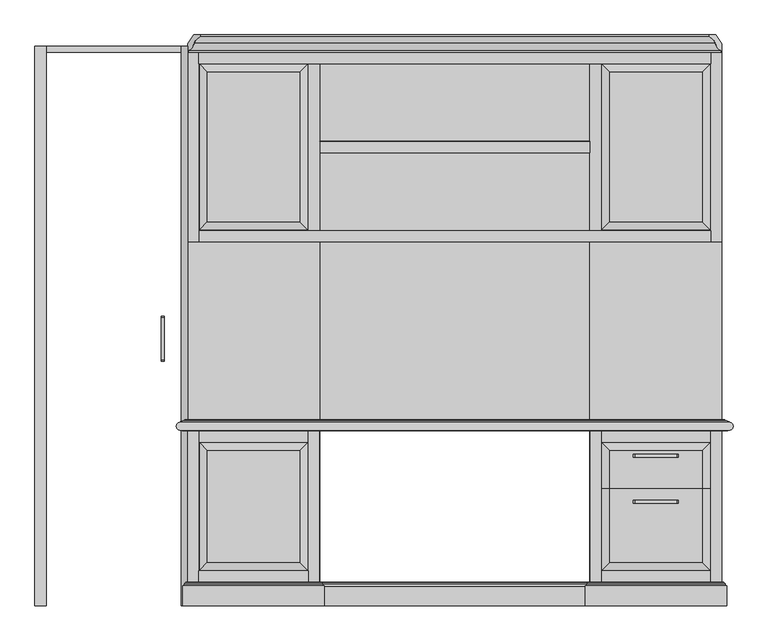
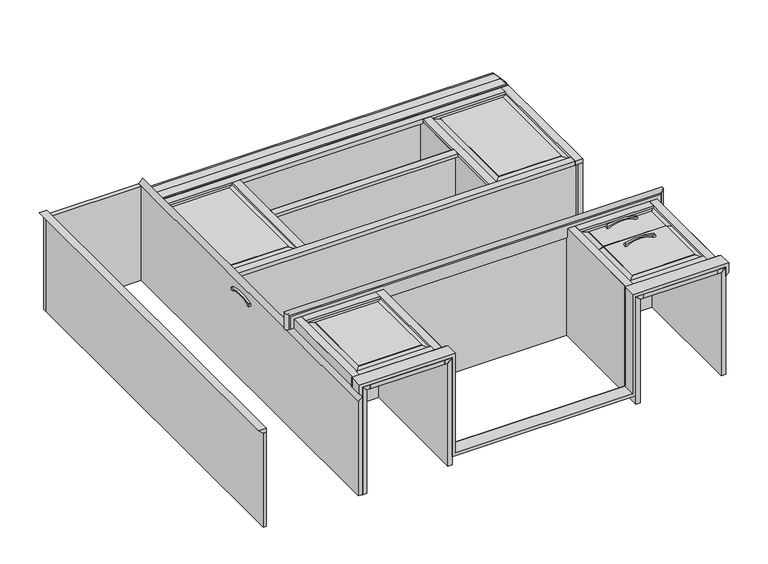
"""IFC4 building model written with IfcOpenShell, lengths in millimetres: proxy geometry, CCN^BRIGHTON_L2-A STRAIGHT WALL-SOLID ASSEMBLY."""

from ifc_helpers import new_model, si_unit, point, frame, frame_2d, origin, place, context, project, spatial, polyline, circle_curve, ellipse_curve, trimmed, segment, composite_curve, outline, extrude, faceted_brep, source, transform, mapped, element, save
from ifc_brep_helpers import plane_surface, cylinder_surface, revolved_surface, advanced_brep


def generic_models_5eb5989c(model_context):
    return source(origin(), model_context, "Body", "SolidModel", [
        extrude(outline(polyline([(482.2863055, -888.8189584), (456.8863055, -914.2189584), (-184.4636945, -914.2189584), (-184.4636945, -888.8189584), (482.2863055, -888.8189584)])), frame((0.0, -1724.1532659, 0.0), z_axis=(0.0, 1.0, 0.0), x_axis=(0.0, 0.0, 1.0)), (0.0, 0.0, 1.0), 704.85),
        extrude(outline(polyline([(-933.2689584, -1724.1532659), (-1371.4189584, -1724.1532659), (-1371.4189584, -1584.4532659), (-933.2689584, -1584.4532659), (-933.2689584, -1724.1532659)])), frame((0.0, 0.0, 456.8863055), z_axis=(0.0, 0.0, 1.0), x_axis=(1.0, 0.0, 0.0)), (0.0, 0.0, 1.0), 25.4),
        advanced_brep(
        [(728.233923, -981.2032659, 425.1363055), (-1426.3718398, -981.2032659, 425.1363055), (-1426.3718398, -981.2032659, 492.7891869), (728.233923, -981.2032659, 492.7891869), (731.4342137, -983.7846321, 495.9894776), (746.3060416, -989.1975348, 510.8613055), (746.3060416, -989.1975348, 425.1363055), (731.4342137, -983.7846321, 425.1363055), (745.172113, -1022.4944855, 509.7273769), (744.7185416, -1022.4782659, 509.2738055), (739.2192803, -1025.6532659, 503.7745442), (739.2192803, -1025.6532659, 425.1363055), (745.172113, -1022.4944855, 425.1363055), (746.3060416, -990.7850348, 510.8613055), (746.3060416, -1022.5350348, 510.8613055), (746.3060416, -990.7850348, 425.1363055), (-1444.4439584, -990.7850348, 510.8613055), (-1444.4439584, -989.1975348, 510.8613055), (-1444.4439584, -989.1975348, 425.1363055), (-1444.4439584, -990.7850348, 425.1363055), (-1443.3100298, -1022.4944855, 509.7273769), (-1444.4439584, -1022.5350348, 510.8613055), (-1443.3100298, -1022.4944855, 425.1363055), (-1437.3571971, -1025.6532659, 503.7745442), (-1442.8564584, -1022.4782659, 509.2738055), (-1437.3571971, -1025.6532659, 425.1363055), (-1429.5721305, -983.7846321, 495.9894776), (-1429.5721305, -983.7846321, 425.1363055)],
        [
            (0, 1),
            (1, 2),
            (2, 3),
            (3, 0),
            (4, 5),
            (5, 6),
            (6, 7),
            (7, 4),
            (3, 4, ellipse_curve(frame((733.6060416, -977.817584, 498.1613055), z_axis=(-0.7071067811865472, 0.0, 0.7071067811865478), x_axis=(-0.7071067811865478, 0.0, -0.7071067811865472)), 8.9802561, 6.35)),
            (7, 0, circle_curve(frame((733.6060416, -977.817584, 425.1363055), z_axis=(0.0, 0.0, -1.0), x_axis=(1.0, 0.0, 0.0)), 6.35)),
            (8, 9, ellipse_curve(frame((744.7185416, -1028.8282659, 509.2738055), z_axis=(-0.7071067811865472, 0.0, 0.7071067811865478), x_axis=(-0.7071067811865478, 0.0, -0.7071067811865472)), 8.9802561, 6.35)),
            (9, 10, ellipse_curve(frame((744.7185416, -1028.8282659, 509.2738055), z_axis=(-0.7071067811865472, 0.0, 0.7071067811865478), x_axis=(-0.7071067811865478, 0.0, -0.7071067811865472)), 8.9802561, 6.35)),
            (10, 11),
            (11, 12, circle_curve(frame((744.7185416, -1028.8282659, 425.1363055), z_axis=(0.0, 0.0, -1.0), x_axis=(1.0, 0.0, 0.0)), 6.35)),
            (12, 8),
            (13, 14, ellipse_curve(frame((746.3060416, -1006.6600348, 510.8613055), z_axis=(0.7071067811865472, 0.0, -0.7071067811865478), x_axis=(-0.7071067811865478, 0.0, -0.7071067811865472)), 22.4506403, 15.875)),
            (14, 8, ellipse_curve(frame((746.3060416, -1006.6600348, 510.8613055), z_axis=(0.7071067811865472, 0.0, -0.7071067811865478), x_axis=(-0.7071067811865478, 0.0, -0.7071067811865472)), 22.4506403, 15.875)),
            (12, 15, circle_curve(frame((746.3060416, -1006.6600348, 425.1363055), z_axis=(0.0, 0.0, 1.0), x_axis=(1.0, 0.0, 0.0)), 15.875)),
            (15, 13),
            (5, 13),
            (15, 6),
            (16, 17),
            (17, 18),
            (18, 19),
            (19, 16),
            (20, 21, ellipse_curve(frame((-1444.4439584, -1006.6600348, 510.8613055), z_axis=(-0.7071067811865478, 0.0, -0.7071067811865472), x_axis=(0.7071067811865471, 0.0, -0.7071067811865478)), 22.4506403, 15.875)),
            (21, 16, ellipse_curve(frame((-1444.4439584, -1006.6600348, 510.8613055), z_axis=(-0.7071067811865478, 0.0, -0.7071067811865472), x_axis=(0.7071067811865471, 0.0, -0.7071067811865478)), 22.4506403, 15.875)),
            (19, 22, circle_curve(frame((-1444.4439584, -1006.6600348, 425.1363055), z_axis=(0.0, 0.0, 1.0), x_axis=(-0.9993612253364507, -0.03573711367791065, 0.0)), 15.875)),
            (22, 20),
            (23, 24, ellipse_curve(frame((-1442.8564584, -1028.8282659, 509.2738055), z_axis=(0.7071067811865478, 0.0, 0.7071067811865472), x_axis=(0.7071067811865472, 0.0, -0.7071067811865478)), 8.9802561, 6.35)),
            (24, 20, ellipse_curve(frame((-1442.8564584, -1028.8282659, 509.2738055), z_axis=(0.7071067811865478, 0.0, 0.7071067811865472), x_axis=(0.7071067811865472, 0.0, -0.7071067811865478)), 8.9802561, 6.35)),
            (22, 25, circle_curve(frame((-1442.8564584, -1028.8282659, 425.1363055), z_axis=(0.0, 0.0, -1.0), x_axis=(1.0, 0.0, 0.0)), 6.35)),
            (25, 23),
            (26, 2, ellipse_curve(frame((-1431.7439584, -977.817584, 498.1613055), z_axis=(0.7071067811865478, 0.0, 0.7071067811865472), x_axis=(0.7071067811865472, 0.0, -0.7071067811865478)), 8.9802561, 6.35)),
            (1, 27, circle_curve(frame((-1431.7439584, -977.817584, 425.1363055), z_axis=(0.0, 0.0, -1.0), x_axis=(-1.0, 0.0, 0.0)), 6.35)),
            (27, 26),
            (17, 26),
            (27, 18),
            (11, 25),
            (26, 4),
            (17, 5),
            (16, 13),
            (20, 8),
            (23, 10),
        ],
        [
            plane_surface(frame((-349.0689584, -981.2032659, 504.5113055), z_axis=(0.0, 1.0, 0.0), x_axis=(0.0, 0.0, 1.0))),
            plane_surface(frame((731.4342137, -983.7846321, 495.9894776), z_axis=(0.34202014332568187, 0.9396926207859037, 0.0), x_axis=(0.6847910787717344, -0.24924356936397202, 0.6847910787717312))),
            revolved_surface(polyline([(739.9560416, -977.817584, 425.1363055), (739.9560416, -977.817584, 504.5113054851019)]), (733.6060416, -977.817584, 498.1613055), (0.0, 0.0, -1.0)),
            revolved_surface(polyline([(751.0685416, -1028.8282659, 425.1363055), (751.0685416, -1028.8282659, 515.6238054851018)]), (744.7185416, -1028.8282659, 509.2738055), (0.0, 0.0, -1.0)),
            cylinder_surface(frame((746.3060416, -1006.6600348, 510.8613055), z_axis=(0.0, 0.0, -1.0), x_axis=(1.0, 0.0, 0.0)), 15.875),
            plane_surface(frame((746.3060416, -989.1975348, 510.8613055), z_axis=(1.0, 0.0, 0.0), x_axis=(0.0, -1.0, 0.0))),
            plane_surface(frame((-1444.4439584, -990.7850348, 510.8613055), z_axis=(-1.0, 0.0, 0.0), x_axis=(0.0, 1.0, 0.0))),
            cylinder_surface(frame((-1444.4439584, -1006.6600348, 510.8613055), z_axis=(0.0, 0.0, -1.0), x_axis=(-0.9993612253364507, -0.03573711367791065, 0.0)), 15.875),
            revolved_surface(polyline([(-1436.5064584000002, -1028.8282659, 425.1363055), (-1436.5064584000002, -1028.8282659, 515.6238054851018)]), (-1442.8564584, -1028.8282659, 509.2738055), (0.0, 0.0, -1.0)),
            revolved_surface(polyline([(-1438.0939584, -977.817584, 425.1363055), (-1438.0939584, -977.817584, 504.5113054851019)]), (-1431.7439584, -977.817584, 498.1613055), (0.0, 0.0, -1.0)),
            plane_surface(frame((-1444.4439584, -989.1975348, 510.8613055), z_axis=(-0.34202014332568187, 0.9396926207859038, 0.0), x_axis=(0.684791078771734, 0.24924356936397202, -0.6847910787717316))),
            plane_surface(frame((-1460.3189584, -981.2032659, 425.1363055), z_axis=(0.0, 0.0, -1.0), x_axis=(-1.0, 0.0, 0.0))),
            revolved_surface(polyline([(739.9560415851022, -981.2032658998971, 492.78918691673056), (-1438.093958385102, -981.2032658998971, 492.78918691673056)]), (-1415.8689584, -977.817584, 498.1613055), (1.0, 0.0, 0.0)),
            plane_surface(frame((-1415.8689584, -989.1975348, 510.8613055), z_axis=(0.0, 0.9396926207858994, 0.3420201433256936), x_axis=(0.0, 0.3420201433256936, -0.9396926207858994))),
            plane_surface(frame((-1415.8689584, -990.7850348, 510.8613055), z_axis=(0.0, 0.0, 1.0), x_axis=(0.0, 1.0, 0.0))),
            cylinder_surface(frame((-1415.8689584, -1006.6600348, 510.8613055), z_axis=(1.0, 0.0, 0.0), x_axis=(0.0, 0.9974457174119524, 0.07142857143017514)), 15.875),
            revolved_surface(polyline([(751.0685415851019, -1022.494485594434, 509.7273769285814), (-1449.206458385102, -1022.494485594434, 509.7273769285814)]), (-1415.8689584, -1028.8282659, 509.2738055), (1.0, 0.0, 0.0)),
            plane_surface(frame((-349.0689584, -1025.6532659, 504.5113055), z_axis=(0.0, -1.0, 0.0), x_axis=(0.0, 0.0, -1.0))),
        ],
        [
            (0, [[1, 2, 3, 4]]),
            (1, [[5, 6, 7, 8]]),
            (2, [[9, -8, 10, -4]]),
            (3, [[11, 12, 13, 14, 15]]),
            (4, [[16, 17, -15, 18, 19]]),
            (5, [[20, -19, 21, -6]]),
            (6, [[22, 23, 24, 25]]),
            (7, [[26, 27, -25, 28, 29]]),
            (8, [[30, 31, -29, 32, 33]]),
            (9, [[34, -2, 35, 36]]),
            (10, [[37, -36, 38, -23]]),
            (11, [[-1, -10, -7, -21, -18, -14, 39, -32, -28, -24, -38, -35]]),
            (12, [[40, -9, -3, -34]]),
            (13, [[41, -5, -40, -37]]),
            (14, [[42, -20, -41, -22]]),
            (15, [[43, -17, -16, -42, -27, -26]]),
            (16, [[44, -12, -11, -43, -31, -30]]),
            (17, [[-39, -13, -44, -33]]),
        ],
    ),
        extrude(outline(polyline([(456.8863055, -914.2189584), (482.2863055, -888.8189584), (482.2863055, -933.2689584), (456.8863055, -933.2689584), (456.8863055, -914.2189584)])), frame((0.0, -1724.1532659, 0.0), z_axis=(0.0, 1.0, 0.0), x_axis=(0.0, 0.0, 1.0)), (0.0, 0.0, 1.0), 704.85),
        extrude(outline(polyline([(456.8863055, 673.2810416), (456.8863055, 692.3310416), (482.2863055, 717.7310416), (482.2863055, 673.2810416), (456.8863055, 673.2810416)])), frame((0.0, -1724.1532659, 0.0), z_axis=(0.0, 1.0, 0.0), x_axis=(0.0, 0.0, 1.0)), (0.0, 0.0, 1.0), 704.85),
        extrude(outline(polyline([(456.8863055, 216.0810416), (482.2863055, 190.6810416), (-184.4636945, 190.6810416), (-184.4636945, 216.0810416), (456.8863055, 216.0810416)])), frame((0.0, -1724.1532659, 0.0), z_axis=(0.0, 1.0, 0.0), x_axis=(0.0, 0.0, 1.0)), (0.0, 0.0, 1.0), 704.85),
        extrude(outline(polyline([(456.8863055, -1390.4689584), (456.8863055, -1371.4189584), (482.2863055, -1371.4189584), (482.2863055, -1415.8689584), (456.8863055, -1390.4689584)])), frame((0.0, -1724.1532659, 0.0), z_axis=(0.0, 1.0, 0.0), x_axis=(0.0, 0.0, 1.0)), (0.0, 0.0, 1.0), 704.85),
        faceted_brep([(638.3560416, -1257.4282659, 479.1113055), (670.1060416, -1257.4282659, 470.6039186), (670.1060416, -1257.4282659, 463.2363055), (238.3060416, -1257.4282659, 463.2363055), (238.3060416, -1257.4282659, 470.6039186), (270.0560416, -1257.4282659, 479.1113055), (270.0560416, -1257.4282659, 482.2863055), (638.3560416, -1257.4282659, 482.2863055), (638.3560416, -1549.5282659, 482.2863055), (638.3560416, -1549.5282659, 479.1113055), (270.0560416, -1549.5282659, 482.2863055), (238.3060416, -1581.2782659, 470.6039186), (270.0560416, -1549.5282659, 479.1113055), (670.1060416, -1581.2782659, 470.6039186), (670.1060416, -1581.2782659, 463.2363055), (238.3060416, -1581.2782659, 463.2363055)], [[[0, 1, 2, 3, 4, 5, 6, 7]], [[0, 7, 8, 9]], [[7, 6, 10, 8]], [[5, 4, 11, 12]], [[1, 0, 9, 13]], [[12, 11, 13, 9]], [[10, 12, 9, 8]], [[6, 5, 12, 10]], [[2, 1, 13, 14]], [[4, 3, 15, 11]], [[13, 11, 15, 14]], [[3, 2, 14, 15]]]),
        faceted_brep([(638.3560416, -1254.2532659, 482.2863055), (638.3560416, -1254.2532659, 479.1113055), (638.3560416, -1105.0282659, 479.1113055), (638.3560416, -1105.0282659, 482.2863055), (270.0560416, -1254.2532659, 482.2863055), (270.0560416, -1105.0282659, 482.2863055), (238.3060416, -1254.2532659, 470.6039186), (270.0560416, -1254.2532659, 479.1113055), (270.0560416, -1105.0282659, 479.1113055), (238.3060416, -1073.2782659, 470.6039186), (670.1060416, -1254.2532659, 470.6039186), (670.1060416, -1073.2782659, 470.6039186), (670.1060416, -1254.2532659, 463.2363055), (670.1060416, -1073.2782659, 463.2363055), (238.3060416, -1254.2532659, 463.2363055), (238.3060416, -1073.2782659, 463.2363055)], [[[0, 1, 2, 3]], [[4, 0, 3, 5]], [[6, 7, 8, 9]], [[1, 10, 11, 2]], [[7, 4, 5, 8]], [[10, 12, 13, 11]], [[14, 6, 9, 15]], [[12, 14, 15, 13]], [[9, 11, 13, 15]], [[3, 2, 8, 5]], [[2, 11, 9, 8]], [[10, 1, 0, 4, 7, 6, 14, 12]]]),
        advanced_brep(
        [(-1422.2189584, -1628.9032659, 431.4863055), (-1415.8689584, -1628.9032659, 425.1363055), (-1415.8689584, -1724.1532659, 425.1363055), (-1434.9189584, -1724.1532659, 444.1863055), (-1434.9189584, -1644.7782659, 444.1863055), (-1428.5689584, -1638.4282659, 437.8363055), (-1422.2189584, -1632.0782659, 431.4863055), (-1422.2189584, -1628.9032659, 488.6363055), (-882.4689584, -1628.9032659, 488.6363055), (-882.4689584, -1628.9032659, -127.3136945), (184.3310416, -1628.9032659, -127.3136945), (184.3310416, -1628.9032659, 488.6363055), (724.0810416, -1628.9032659, 488.6363055), (724.0810416, -1628.9032659, 431.4863055), (717.7310416, -1628.9032659, 425.1363055), (717.7310416, -1628.9032659, 482.2863055), (190.6810416, -1628.9032659, 482.2863055), (190.6810416, -1628.9032659, -133.6636945), (-888.8189584, -1628.9032659, -133.6636945), (-888.8189584, -1628.9032659, 482.2863055), (-1415.8689584, -1628.9032659, 482.2863055), (-1422.2189584, -1632.0782659, 488.6363055), (-1428.5689584, -1638.4282659, 494.9863055), (736.7810416, -1724.1532659, 444.1863055), (717.7310416, -1724.1532659, 425.1363055), (724.0810416, -1632.0782659, 431.4863055), (730.4310416, -1638.4282659, 437.8363055), (736.7810416, -1644.7782659, 444.1863055), (730.4310416, -1638.4282659, 494.9863055), (736.7810416, -1644.7782659, 501.3363055), (724.0810416, -1632.0782659, 488.6363055), (-1434.9189584, -1644.7782659, 501.3363055), (-1434.9189584, -1724.1532659, 501.3363055), (-1415.8689584, -1724.1532659, 482.2863055), (-888.8189584, -1724.1532659, 482.2863055), (-882.4689584, -1632.0782659, 488.6363055), (-869.7689584, -1644.7782659, 501.3363055), (-876.1189584, -1638.4282659, 494.9863055), (717.7310416, -1724.1532659, 482.2863055), (736.7810416, -1724.1532659, 501.3363055), (177.9810416, -1638.4282659, 494.9863055), (171.6310416, -1644.7782659, 501.3363055), (184.3310416, -1632.0782659, 488.6363055), (-888.8189584, -1724.1532659, -133.6636945), (190.6810416, -1724.1532659, -133.6636945), (190.6810416, -1724.1532659, 482.2863055), (171.6310416, -1724.1532659, 501.3363055), (171.6310416, -1724.1532659, -114.6136945), (-869.7689584, -1724.1532659, -114.6136945), (-869.7689584, -1724.1532659, 501.3363055), (177.9810416, -1638.4282659, -120.9636945), (171.6310416, -1644.7782659, -114.6136945), (184.3310416, -1632.0782659, -127.3136945), (-876.1189584, -1638.4282659, -120.9636945), (-869.7689584, -1644.7782659, -114.6136945), (-882.4689584, -1632.0782659, -127.3136945)],
        [
            (0, 1),
            (1, 2),
            (2, 3),
            (3, 4),
            (4, 5, ellipse_curve(frame((-1434.9189584, -1638.4282659, 444.1863055), z_axis=(0.707106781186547, 0.0, 0.7071067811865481), x_axis=(0.7071067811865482, 0.0, -0.7071067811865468)), 8.9802561, 6.35)),
            (5, 6, ellipse_curve(frame((-1422.2189584, -1638.4282659, 431.4863055), z_axis=(-0.707106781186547, 0.0, -0.7071067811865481), x_axis=(0.7071067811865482, 0.0, -0.7071067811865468)), 8.9802561, 6.35)),
            (6, 0),
            (0, 7),
            (7, 8),
            (8, 9),
            (9, 10),
            (10, 11),
            (11, 12),
            (12, 13),
            (13, 14),
            (14, 15),
            (15, 16),
            (16, 17),
            (17, 18),
            (18, 19),
            (19, 20),
            (20, 1),
            (6, 21),
            (21, 7),
            (5, 22),
            (22, 21, ellipse_curve(frame((-1422.2189584, -1638.4282659, 488.6363055), z_axis=(-0.7071067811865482, 0.0, -0.7071067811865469), x_axis=(0.707106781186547, 0.0, -0.707106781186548)), 8.9802561, 6.35)),
            (23, 24),
            (24, 14),
            (13, 25),
            (25, 26, ellipse_curve(frame((724.0810416, -1638.4282659, 431.4863055), z_axis=(0.7071067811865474, 0.0, -0.7071067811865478), x_axis=(0.7071067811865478, 0.0, 0.7071067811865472)), 8.9802561, 6.35)),
            (26, 27, ellipse_curve(frame((736.7810416, -1638.4282659, 444.1863055), z_axis=(-0.7071067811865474, 0.0, 0.7071067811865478), x_axis=(0.7071067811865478, 0.0, 0.7071067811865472)), 8.9802561, 6.35)),
            (27, 23),
            (26, 28),
            (28, 29, ellipse_curve(frame((736.7810416, -1638.4282659, 501.3363055), z_axis=(-0.7071067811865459, 0.0, 0.7071067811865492), x_axis=(0.7071067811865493, 0.0, 0.7071067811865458)), 8.9802561, 6.35)),
            (29, 27),
            (25, 30),
            (30, 28, ellipse_curve(frame((724.0810416, -1638.4282659, 488.6363055), z_axis=(0.7071067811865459, 0.0, -0.7071067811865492), x_axis=(0.7071067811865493, 0.0, 0.7071067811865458)), 8.9802561, 6.35)),
            (12, 30),
            (4, 31),
            (31, 22, ellipse_curve(frame((-1434.9189584, -1638.4282659, 501.3363055), z_axis=(0.7071067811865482, 0.0, 0.7071067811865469), x_axis=(0.707106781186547, 0.0, -0.707106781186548)), 8.9802561, 6.35)),
            (3, 32),
            (32, 31),
            (20, 33),
            (33, 2),
            (19, 34),
            (34, 33),
            (21, 35),
            (35, 8),
            (31, 36),
            (36, 37, ellipse_curve(frame((-869.7689584, -1638.4282659, 501.3363055), z_axis=(0.7071067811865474, 0.0, -0.7071067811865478), x_axis=(0.7071067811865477, 0.0, 0.7071067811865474)), 8.9802561, 6.35)),
            (37, 22),
            (24, 38),
            (38, 15),
            (29, 39),
            (39, 23),
            (28, 40),
            (40, 41, ellipse_curve(frame((171.6310416, -1638.4282659, 501.3363055), z_axis=(-0.7071067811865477, 0.0, -0.7071067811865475), x_axis=(0.7071067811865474, 0.0, -0.7071067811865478)), 8.9802561, 6.35)),
            (41, 29),
            (30, 42),
            (42, 40, ellipse_curve(frame((184.3310416, -1638.4282659, 488.6363055), z_axis=(0.7071067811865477, 0.0, 0.7071067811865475), x_axis=(0.7071067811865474, 0.0, -0.7071067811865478)), 8.9802561, 6.35)),
            (34, 43),
            (43, 44),
            (44, 45),
            (45, 38),
            (39, 46),
            (46, 47),
            (47, 48),
            (48, 49),
            (49, 32),
            (41, 46),
            (37, 35, ellipse_curve(frame((-882.4689584, -1638.4282659, 488.6363055), z_axis=(-0.7071067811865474, 0.0, 0.7071067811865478), x_axis=(0.7071067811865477, 0.0, 0.7071067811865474)), 8.9802561, 6.35)),
            (11, 42),
            (45, 16),
            (50, 51, ellipse_curve(frame((171.6310416, -1638.4282659, -114.6136945), z_axis=(-0.7071067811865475, 0.0, -0.7071067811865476), x_axis=(-0.7071067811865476, 0.0, 0.7071067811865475)), 8.9802561, 6.35)),
            (51, 41),
            (40, 50),
            (52, 50, ellipse_curve(frame((184.3310416, -1638.4282659, -127.3136945), z_axis=(0.7071067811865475, 0.0, 0.7071067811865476), x_axis=(-0.7071067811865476, 0.0, 0.7071067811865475)), 8.9802561, 6.35)),
            (42, 52),
            (10, 52),
            (44, 17),
            (51, 47),
            (53, 54, ellipse_curve(frame((-869.7689584, -1638.4282659, -114.6136945), z_axis=(-0.7071067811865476, 0.0, 0.7071067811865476), x_axis=(0.7071067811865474, 0.0, 0.7071067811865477)), 8.9802561, 6.35)),
            (54, 51),
            (50, 53),
            (55, 53, ellipse_curve(frame((-882.4689584, -1638.4282659, -127.3136945), z_axis=(0.7071067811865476, 0.0, -0.7071067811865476), x_axis=(0.7071067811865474, 0.0, 0.7071067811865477)), 8.9802561, 6.35)),
            (52, 55),
            (9, 55),
            (43, 18),
            (54, 48),
            (36, 54),
            (53, 37),
            (55, 35),
            (36, 49),
        ],
        [
            plane_surface(frame((-1425.3939584, -1724.1532659, 434.6613055), z_axis=(-0.707106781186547, 0.0, -0.7071067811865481), x_axis=(-0.7071067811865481, 0.0, 0.707106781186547))),
            plane_surface(frame((-1415.8689584, -1628.9032659, 482.2863055), z_axis=(0.0, 1.0, 0.0), x_axis=(0.0, 0.0, 1.0))),
            plane_surface(frame((-1422.2189584, -1632.0782659, 488.6363055), z_axis=(-1.0, 0.0, 0.0), x_axis=(0.0, 1.0, 0.0))),
            cylinder_surface(frame((-1422.2189584, -1638.4282659, 488.6363055), z_axis=(0.0, 0.0, -1.0), x_axis=(-1.0, 0.0, 0.0)), 6.35),
            plane_surface(frame((727.2560416, -1700.3407659, 434.6613055), z_axis=(0.7071067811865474, 0.0, -0.7071067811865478), x_axis=(-0.7071067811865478, 0.0, -0.7071067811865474))),
            revolved_surface(polyline([(736.7810416, -1632.0782659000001, 507.6863054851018), (736.7810416, -1632.0782659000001, 437.8363055)]), (736.7810416, -1638.4282659, 425.1363055), (0.0, 0.0, 1.0)),
            cylinder_surface(frame((724.0810416, -1638.4282659, 425.1363055), z_axis=(0.0, 0.0, 1.0), x_axis=(0.0, 1.0, 0.0)), 6.35),
            plane_surface(frame((724.0810416, -1632.0782659, 425.1363055), z_axis=(1.0, 0.0, 0.0), x_axis=(0.0, 1.0, 0.0))),
            revolved_surface(polyline([(-1441.2689584, -1638.4282659, 437.8363055), (-1441.2689584, -1638.4282659, 507.68630548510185)]), (-1434.9189584, -1638.4282659, 501.3363055), (0.0, 0.0, -1.0)),
            plane_surface(frame((-1434.9189584, -1724.1532659, 501.3363055), z_axis=(-1.0, 0.0, 0.0), x_axis=(0.0, 1.0, 0.0))),
            plane_surface(frame((-1415.8689584, -1628.9032659, 482.2863055), z_axis=(1.0, 0.0, 0.0), x_axis=(0.0, -1.0, 0.0))),
            plane_surface(frame((-1415.8689584, -1724.1532659, 482.2863055), z_axis=(0.0, 0.0, -1.0), x_axis=(0.0, 1.0, 0.0))),
            plane_surface(frame((-1415.8689584, -1628.9032659, 488.6363055), z_axis=(0.0, 0.0, 1.0), x_axis=(0.0, -1.0, 0.0))),
            revolved_surface(polyline([(-863.4189584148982, -1638.4282659, 507.6863055), (-1441.268958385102, -1638.4282659, 507.6863055)]), (-1415.8689584, -1638.4282659, 501.3363055), (1.0, 0.0, 0.0)),
            plane_surface(frame((717.7310416, -1628.9032659, 425.1363055), z_axis=(-1.0, 0.0, 0.0), x_axis=(0.0, -1.0, 0.0))),
            plane_surface(frame((736.7810416, -1724.1532659, 425.1363055), z_axis=(1.0, 0.0, 0.0), x_axis=(0.0, 1.0, 0.0))),
            revolved_surface(polyline([(743.1310415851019, -1638.4282659, 507.6863055), (165.28104161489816, -1638.4282659, 507.6863055)]), (171.6310416, -1638.4282659, 501.3363055), (1.0, 0.0, 0.0)),
            cylinder_surface(frame((184.3310416, -1638.4282659, 488.6363055), z_axis=(1.0, 0.0, 0.0), x_axis=(0.0, 0.0, 1.0)), 6.35),
            plane_surface(frame((-1415.8689584, -1724.1532659, 501.3363055), z_axis=(0.0, -1.0, 0.0), x_axis=(0.0, 0.0, -1.0))),
            plane_surface(frame((171.6310416, -1644.7782659, 501.3363055), z_axis=(0.0, 0.0, 1.0), x_axis=(0.0, -1.0, 0.0))),
            cylinder_surface(frame((-1415.8689584, -1638.4282659, 488.6363055), z_axis=(1.0, 0.0, 0.0), x_axis=(0.0, 0.0, 1.0)), 6.35),
            plane_surface(frame((184.3310416, -1628.9032659, 488.6363055), z_axis=(0.0, 0.0, 1.0), x_axis=(0.0, -1.0, 0.0))),
            plane_surface(frame((190.6810416, -1724.1532659, 482.2863055), z_axis=(0.0, 0.0, -1.0), x_axis=(0.0, 1.0, 0.0))),
            revolved_surface(polyline([(165.2810416, -1638.4282659, 507.68630548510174), (165.2810416, -1638.4282659, -120.9636945)]), (171.6310416, -1638.4282659, -114.6136945), (0.0, 0.0, 1.0)),
            cylinder_surface(frame((184.3310416, -1638.4282659, -127.3136945), z_axis=(0.0, 0.0, 1.0), x_axis=(-1.0, 0.0, 0.0)), 6.35),
            plane_surface(frame((184.3310416, -1628.9032659, -127.3136945), z_axis=(-1.0, 0.0, 0.0), x_axis=(0.0, -1.0, 0.0))),
            plane_surface(frame((190.6810416, -1724.1532659, -133.6636945), z_axis=(1.0, 0.0, 0.0), x_axis=(0.0, 1.0, 0.0))),
            plane_surface(frame((171.6310416, -1644.7782659, -114.6136945), z_axis=(-1.0, 0.0, 0.0), x_axis=(0.0, -1.0, 0.0))),
            revolved_surface(polyline([(177.98104160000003, -1638.4282659, -108.2636945), (-876.1189584, -1638.4282659, -108.2636945)]), (-869.7689584, -1638.4282659, -114.6136945), (1.0, 0.0, 0.0)),
            cylinder_surface(frame((-882.4689584, -1638.4282659, -127.3136945), z_axis=(1.0, 0.0, 0.0), x_axis=(0.0, 0.0, 1.0)), 6.35),
            plane_surface(frame((-882.4689584, -1628.9032659, -127.3136945), z_axis=(0.0, 0.0, 1.0), x_axis=(0.0, -1.0, 0.0))),
            plane_surface(frame((-888.8189584, -1724.1532659, -133.6636945), z_axis=(0.0, 0.0, -1.0), x_axis=(0.0, 1.0, 0.0))),
            plane_surface(frame((-869.7689584, -1644.7782659, -114.6136945), z_axis=(0.0, 0.0, 1.0), x_axis=(0.0, -1.0, 0.0))),
            revolved_surface(polyline([(-863.4189584, -1638.4282659, -120.96369449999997), (-863.4189584, -1638.4282659, 507.68630548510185)]), (-869.7689584, -1638.4282659, 501.3363055), (0.0, 0.0, -1.0)),
            cylinder_surface(frame((-882.4689584, -1638.4282659, 488.6363055), z_axis=(0.0, 0.0, -1.0), x_axis=(1.0, 0.0, 0.0)), 6.35),
            plane_surface(frame((-882.4689584, -1628.9032659, 488.6363055), z_axis=(1.0, 0.0, 0.0), x_axis=(0.0, -1.0, 0.0))),
            plane_surface(frame((-888.8189584, -1724.1532659, 482.2863055), z_axis=(-1.0, 0.0, 0.0), x_axis=(0.0, 1.0, 0.0))),
            plane_surface(frame((-869.7689584, -1644.7782659, 501.3363055), z_axis=(1.0, 0.0, 0.0), x_axis=(0.0, -1.0, 0.0))),
            plane_surface(frame((-1415.8689584, -1644.7782659, 501.3363055), z_axis=(0.0, 0.0, 1.0), x_axis=(0.0, -1.0, 0.0))),
        ],
        [
            (0, [[1, 2, 3, 4, 5, 6, 7]]),
            (1, [[-1, 8, 9, 10, 11, 12, 13, 14, 15, 16, 17, 18, 19, 20, 21, 22]]),
            (2, [[-7, 23, 24, -8]]),
            (3, [[-6, 25, 26, -23]]),
            (4, [[27, 28, -15, 29, 30, 31, 32]]),
            (5, [[-31, 33, 34, 35]]),
            (6, [[-30, 36, 37, -33]]),
            (7, [[-29, -14, 38, -36]]),
            (8, [[-5, 39, 40, -25]]),
            (9, [[-4, 41, 42, -39]]),
            (10, [[43, 44, -2, -22]]),
            (11, [[-21, 45, 46, -43]]),
            (12, [[47, 48, -9, -24]]),
            (13, [[49, 50, 51, -40]]),
            (14, [[-28, 52, 53, -16]]),
            (15, [[-32, -35, 54, 55]]),
            (16, [[56, 57, 58, -34]]),
            (17, [[59, 60, -56, -37]]),
            (18, [[-3, -44, -46, 61, 62, 63, 64, -52, -27, -55, 65, 66, 67, 68, 69, -41]]),
            (19, [[-58, 70, -65, -54]]),
            (20, [[-51, 71, -47, -26]]),
            (21, [[-13, 72, -59, -38]]),
            (22, [[-64, 73, -17, -53]]),
            (23, [[74, 75, -57, 76]]),
            (24, [[77, -76, -60, 78]]),
            (25, [[79, -78, -72, -12]]),
            (26, [[80, -18, -73, -63]]),
            (27, [[81, -66, -70, -75]]),
            (28, [[82, 83, -74, 84]]),
            (29, [[85, -84, -77, 86]]),
            (30, [[87, -86, -79, -11]]),
            (31, [[88, -19, -80, -62]]),
            (32, [[89, -67, -81, -83]]),
            (33, [[-50, 90, -82, 91]]),
            (34, [[-71, -91, -85, 92]]),
            (35, [[-48, -92, -87, -10]]),
            (36, [[-45, -20, -88, -61]]),
            (37, [[93, -68, -89, -90]]),
            (38, [[-69, -93, -49, -42]]),
        ],
    ),
        extrude(outline(polyline([(-1371.4189584, -1019.3032659), (-933.2689584, -1019.3032659), (-933.2689584, -1070.1032659), (-1371.4189584, -1070.1032659), (-1371.4189584, -1019.3032659)])), frame((0.0, 0.0, 456.8863055), z_axis=(0.0, 0.0, 1.0), x_axis=(1.0, 0.0, 0.0)), (0.0, 0.0, 1.0), 25.4),
        extrude(outline(polyline([(482.2863055, 190.6810416), (456.8863055, 216.0810416), (456.8863055, 235.1310416), (482.2863055, 235.1310416), (482.2863055, 190.6810416)])), frame((0.0, -1724.1532659, 0.0), z_axis=(0.0, 1.0, 0.0), x_axis=(0.0, 0.0, 1.0)), (0.0, 0.0, 1.0), 704.85),
        extrude(outline(polyline([(482.2863055, 717.7310416), (456.8863055, 692.3310416), (-184.4636945, 692.3310416), (-184.4636945, 717.7310416), (482.2863055, 717.7310416)])), frame((0.0, -1724.1532659, 0.0), z_axis=(0.0, 1.0, 0.0), x_axis=(0.0, 0.0, 1.0)), (0.0, 0.0, 1.0), 704.85),
        extrude(outline(polyline([(235.1310416, -1019.3032659), (673.2810416, -1019.3032659), (673.2810416, -1070.1032659), (235.1310416, -1070.1032659), (235.1310416, -1019.3032659)])), frame((0.0, 0.0, 456.8863055), z_axis=(0.0, 0.0, 1.0), x_axis=(1.0, 0.0, 0.0)), (0.0, 0.0, 1.0), 25.4),
        extrude(outline(polyline([(673.2810416, -1724.1532659), (235.1310416, -1724.1532659), (235.1310416, -1584.4532659), (673.2810416, -1584.4532659), (673.2810416, -1724.1532659)])), frame((0.0, 0.0, 456.8863055), z_axis=(0.0, 0.0, 1.0), x_axis=(1.0, 0.0, 0.0)), (0.0, 0.0, 1.0), 25.4),
        extrude(outline(polyline([(717.7310416, -1019.3032659), (-1415.8689584, -1019.3032659), (-1415.8689584, -981.2032659), (717.7310416, -981.2032659), (717.7310416, -1019.3032659)])), frame((0.0, 0.0, -184.4636945), z_axis=(0.0, 0.0, 1.0), x_axis=(1.0, 0.0, 0.0)), (0.0, 0.0, 1.0), 666.75),
        extrude(outline(polyline([(456.8863055, -1390.4689584), (482.2863055, -1415.8689584), (-184.4636945, -1415.8689584), (-184.4636945, -1390.4689584), (456.8863055, -1390.4689584)])), frame((0.0, -1724.1532659, 0.0), z_axis=(0.0, 1.0, 0.0), x_axis=(0.0, 0.0, 1.0)), (0.0, 0.0, 1.0), 704.85),
        faceted_brep([(-968.1939584, -1549.5282659, 482.2863055), (-968.1939584, -1549.5282659, 479.1113055), (-968.1939584, -1105.0282659, 479.1113055), (-968.1939584, -1105.0282659, 482.2863055), (-936.4439584, -1581.2782659, 470.6039186), (-936.4439584, -1073.2782659, 470.6039186), (-1336.4939584, -1549.5282659, 482.2863055), (-1336.4939584, -1549.5282659, 479.1113055), (-1368.2439584, -1581.2782659, 470.6039186), (-1336.4939584, -1105.0282659, 482.2863055), (-1336.4939584, -1105.0282659, 479.1113055), (-1368.2439584, -1073.2782659, 470.6039186), (-936.4439584, -1073.2782659, 463.2363055), (-1368.2439584, -1073.2782659, 463.2363055), (-936.4439584, -1581.2782659, 463.2363055), (-1368.2439584, -1581.2782659, 463.2363055)], [[[0, 1, 2, 3]], [[1, 4, 5, 2]], [[6, 7, 1, 0]], [[7, 8, 4, 1]], [[9, 10, 7, 6]], [[10, 11, 8, 7]], [[2, 5, 11, 10]], [[3, 2, 10, 9]], [[11, 5, 12, 13]], [[5, 4, 14, 12]], [[8, 11, 13, 15]], [[4, 8, 15, 14]], [[0, 3, 9, 6]], [[14, 15, 13, 12]]]),
        extrude(outline(composite_curve([segment(polyline([(482.2863055, 367.5491873), (482.2863055, 378.8628958)]), True, "CONTINUOUS"), segment(trimmed(circle_curve(frame_2d((489.2863055, 373.2060416)), 9.0), [point((482.2863055, 378.8628958))], [point((489.2863055, 382.2060416))], False, "CARTESIAN"), True, "CONTINUOUS"), segment(trimmed(circle_curve(frame_2d((326.7168127, 454.2060416)), 177.8), [point((489.2863055, 382.2060416))], [point((489.2863055, 526.2060416))], True, "CARTESIAN"), True, "CONTINUOUS"), segment(trimmed(circle_curve(frame_2d((489.2863055, 535.2060416)), 9.0), [point((489.2863055, 526.2060416))], [point((482.2863055, 529.5491873))], False, "CARTESIAN"), True, "CONTINUOUS"), segment(polyline([(482.2863055, 529.5491873), (482.2863055, 540.8628958)]), True, "CONTINUOUS"), segment(trimmed(circle_curve(frame_2d((489.2863055, 535.2060416)), 9.0), [point((482.2863055, 540.8628958))], [point((497.8997283, 537.8154376))], False, "CARTESIAN"), True, "CONTINUOUS"), segment(trimmed(circle_curve(frame_2d((221.9113055, 454.2060416)), 288.375), [point((497.8997283, 537.8154376))], [point((497.8997283, 370.5966456))], False, "CARTESIAN"), True, "CONTINUOUS"), segment(trimmed(circle_curve(frame_2d((489.2863055, 373.2060416)), 9.0), [point((497.8997283, 370.5966456))], [point((482.2863055, 367.5491873))], False, "CARTESIAN"), True, "CONTINUOUS")], self_intersect=False)), frame((0.0, -1314.2282659, 0.0), z_axis=(0.0, 1.0, 0.0), x_axis=(0.0, 0.0, 1.0)), (0.0, 0.0, 1.0), 12.0),
        extrude(outline(composite_curve([segment(polyline([(482.2863055, 367.5491873), (482.2863055, 378.8628958)]), True, "CONTINUOUS"), segment(trimmed(circle_curve(frame_2d((489.2863055, 373.2060416)), 9.0), [point((482.2863055, 378.8628958))], [point((489.2863055, 382.2060416))], False, "CARTESIAN"), True, "CONTINUOUS"), segment(trimmed(circle_curve(frame_2d((326.7168127, 454.2060416)), 177.8), [point((489.2863055, 382.2060416))], [point((489.2863055, 526.2060416))], True, "CARTESIAN"), True, "CONTINUOUS"), segment(trimmed(circle_curve(frame_2d((489.2863055, 535.2060416)), 9.0), [point((489.2863055, 526.2060416))], [point((482.2863055, 529.5491873))], False, "CARTESIAN"), True, "CONTINUOUS"), segment(polyline([(482.2863055, 529.5491873), (482.2863055, 540.8628958)]), True, "CONTINUOUS"), segment(trimmed(circle_curve(frame_2d((489.2863055, 535.2060416)), 9.0), [point((482.2863055, 540.8628958))], [point((497.8997283, 537.8154376))], False, "CARTESIAN"), True, "CONTINUOUS"), segment(trimmed(circle_curve(frame_2d((221.9113055, 454.2060416)), 288.375), [point((497.8997283, 537.8154376))], [point((497.8997283, 370.5966456))], False, "CARTESIAN"), True, "CONTINUOUS"), segment(trimmed(circle_curve(frame_2d((489.2863055, 373.2060416)), 9.0), [point((497.8997283, 370.5966456))], [point((482.2863055, 367.5491873))], False, "CARTESIAN"), True, "CONTINUOUS")], self_intersect=False)), frame((0.0, -1130.0782659, 0.0), z_axis=(0.0, 1.0, 0.0), x_axis=(0.0, 0.0, 1.0)), (0.0, 0.0, 1.0), 12.0),
        extrude(outline(polyline([(190.6492916, -245.3970159), (716.9372916, -245.3970159), (716.9372916, -980.4095159), (190.6492916, -980.4095159), (190.6492916, -245.3970159)])), frame((0.0, 0.0, -162.2386945), z_axis=(0.0, 0.0, 1.0), x_axis=(1.0, 0.0, 0.0)), (0.0, 0.0, 1.0), 19.05),
        extrude(outline(polyline([(-1415.0752084, -245.3970159), (-888.7872084, -245.3970159), (-888.7872084, -980.4095159), (-1415.0752084, -980.4095159), (-1415.0752084, -245.3970159)])), frame((0.0, 0.0, -162.2386945), z_axis=(0.0, 0.0, 1.0), x_axis=(1.0, 0.0, 0.0)), (0.0, 0.0, 1.0), 19.05),
        extrude(outline(polyline([(189.8555416, -980.4095159), (-887.9934584, -980.4095159), (-887.9934584, -245.3970159), (189.8555416, -245.3970159), (189.8555416, -980.4095159)])), frame((0.0, 0.0, -162.2386945), z_axis=(0.0, 0.0, 1.0), x_axis=(1.0, 0.0, 0.0)), (0.0, 0.0, 1.0), 19.05),
        extrude(outline(polyline([(203.3492916, 466.5967341), (203.3492916, -225.5532659), (190.6492916, -225.5532659), (190.6492916, 466.5967341), (203.3492916, 466.5967341)])), frame((0.0, 0.0, -165.4136945), z_axis=(0.0, 0.0, 1.0), x_axis=(1.0, 0.0, 0.0)), (0.0, 0.0, 1.0), 419.1),
        extrude(outline(polyline([(673.2810416, 441.1967341), (-1371.4189584, 441.1967341), (-1371.4189584, 485.6467341), (673.2810416, 485.6467341), (673.2810416, 441.1967341)])), frame((0.0, 0.0, 247.3363055), z_axis=(0.0, 0.0, 1.0), x_axis=(1.0, 0.0, 0.0)), (0.0, 0.0, 1.0), 25.4),
        faceted_brep([(-968.1622091, -190.6282652, 272.7363055), (-968.1622091, -190.6282652, 269.5613054), (-968.1622091, 406.2717335, 269.5613054), (-968.1622091, 406.2717335, 272.7363055), (-936.4122084, -222.3782659, 261.0539184), (-936.4122084, 438.0217341, 261.0539184), (-1336.4939578, -190.6282652, 272.7363055), (-1336.4939578, -190.6282652, 269.5613054), (-1368.2439584, -222.3782659, 261.0539184), (-1336.4939578, 406.2717335, 272.7363055), (-1336.4939578, 406.2717335, 269.5613054), (-1368.2439584, 438.0217341, 261.0539184), (-936.4122084, 438.0217341, 253.6863055), (-1368.2439584, 438.0217341, 253.6863055), (-936.4122084, -222.3782659, 253.6863055), (-1368.2439584, -222.3782659, 253.6863055)], [[[0, 1, 2, 3]], [[1, 4, 5, 2]], [[6, 7, 1, 0]], [[7, 8, 4, 1]], [[9, 10, 7, 6]], [[10, 11, 8, 7]], [[2, 5, 11, 10]], [[3, 2, 10, 9]], [[11, 5, 12, 13]], [[5, 4, 14, 12]], [[8, 11, 13, 15]], [[4, 8, 15, 14]], [[0, 3, 9, 6]], [[14, 15, 13, 12]]]),
        advanced_brep(
        [(-1389.1555865, 521.5905487, 299.4496774), (-1365.0689584, 547.5719341, 323.5363055), (-1365.0689584, 555.4967341, 323.5363055), (-1390.5249466, 555.4967341, 298.0803173), (-1415.8689584, 519.3017341, 272.7363055), (-1415.8689584, 485.6467341, 272.7363055), (-1410.3063584, 485.6467341, 278.2989055), (-1410.3063584, 492.3867588, 278.2989055), (712.1684416, 485.6467341, 278.2989055), (712.1684416, 492.3867588, 278.2989055), (717.7310416, 485.6467341, 272.7363055), (692.3870297, 555.4967341, 298.0803173), (717.7310416, 519.3017341, 272.7363055), (666.9310416, 555.4967341, 323.5363055), (666.9310416, 547.5719341, 323.5363055), (691.0176696, 521.5905487, 299.4496774)],
        [
            (0, 1, ellipse_curve(frame((-1352.3756075, 511.6485595, 336.2296564), z_axis=(0.7071067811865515, 0.0, -0.7071067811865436), x_axis=(0.7071067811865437, 0.0, 0.7071067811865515)), 53.8815367, 38.1)),
            (1, 2),
            (2, 3),
            (3, 4),
            (4, 5),
            (5, 6),
            (6, 7),
            (7, 0, ellipse_curve(frame((-1438.1955584, 534.8465341, 250.4097055), z_axis=(-0.7071067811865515, 0.0, 0.7071067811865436), x_axis=(0.7071067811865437, 0.0, 0.7071067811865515)), 71.842049, 50.8)),
            (6, 8),
            (8, 9),
            (9, 7),
            (5, 10),
            (10, 8),
            (3, 11),
            (11, 12),
            (12, 4),
            (11, 13),
            (13, 14),
            (14, 15, ellipse_curve(frame((654.2376907, 511.6485595, 336.2296564), z_axis=(-0.7071067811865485, 0.0, -0.7071067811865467), x_axis=(0.7071067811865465, 0.0, -0.7071067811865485)), 53.8815367, 38.1)),
            (15, 9, ellipse_curve(frame((740.0576416, 534.8465341, 250.4097055), z_axis=(0.7071067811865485, 0.0, 0.7071067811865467), x_axis=(0.7071067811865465, 0.0, -0.7071067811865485)), 71.842049, 50.8)),
            (10, 12),
            (15, 0),
            (14, 1),
            (2, 13),
        ],
        [
            plane_surface(frame((-1390.4689584, 511.0467341, 298.1363055), z_axis=(-0.7071067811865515, 0.0, 0.7071067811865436), x_axis=(0.7071067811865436, 0.0, 0.7071067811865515))),
            plane_surface(frame((-1415.8689584, 485.6467341, 278.2989055), z_axis=(0.0, 0.0, 1.0), x_axis=(0.0, 1.0, 0.0))),
            plane_surface(frame((-349.0689584, 485.6467341, 298.1363055), z_axis=(0.0, -1.0, 0.0), x_axis=(0.0, 0.0, -1.0))),
            plane_surface(frame((-1415.8689584, 555.4967341, 298.0803173), z_axis=(0.0, 0.5735764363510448, -0.8191520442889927), x_axis=(0.0, -0.8191520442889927, -0.5735764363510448))),
            plane_surface(frame((692.3310416, 511.0467341, 298.1363055), z_axis=(0.7071067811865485, 0.0, 0.7071067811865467), x_axis=(0.7071067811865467, 0.0, -0.7071067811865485))),
            cylinder_surface(frame((-1415.8689584, 534.8465341, 250.4097055), z_axis=(0.9999999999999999, 0.0, 0.0), x_axis=(0.0, 0.8358223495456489, -0.5489999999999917)), 50.8),
            revolved_surface(polyline([(692.3376906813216, 547.5719340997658, 323.5363054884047), (-1390.4756074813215, 547.5719340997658, 323.5363054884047)]), (-1415.8689584, 511.6485595, 336.2296564), (1.0, 0.0, 0.0)),
            plane_surface(frame((-349.0689584, 555.4967341, 298.1363055), z_axis=(0.0, 1.0, 0.0), x_axis=(0.0, 0.0, 1.0))),
            plane_surface(frame((-1415.8689584, 511.0467341, 323.5363055), z_axis=(0.0, 0.0, 1.0), x_axis=(1.0, 0.0, 0.0))),
            plane_surface(frame((717.7310416, 511.0467341, 272.7363055), z_axis=(0.0, 0.0, -1.0), x_axis=(-1.0, 0.0, 0.0))),
        ],
        [
            (0, [[1, 2, 3, 4, 5, 6, 7, 8]]),
            (1, [[-7, 9, 10, 11]]),
            (2, [[-6, 12, 13, -9]]),
            (3, [[-4, 14, 15, 16]]),
            (4, [[17, 18, 19, 20, -10, -13, 21, -15]]),
            (5, [[-8, -11, -20, 22]]),
            (6, [[-1, -22, -19, 23]]),
            (7, [[-3, 24, -17, -14]]),
            (8, [[-2, -23, -18, -24]]),
            (9, [[-16, -21, -12, -5]]),
        ],
    ),
        extrude(outline(polyline([(-1415.8689584, -270.0032659), (-1415.8689584, 485.6467341), (-1371.4189584, 485.6467341), (-1371.4189584, -270.0032659), (-1415.8689584, -270.0032659)])), frame((0.0, 0.0, 247.3363055), z_axis=(0.0, 0.0, 1.0), x_axis=(1.0, 0.0, 0.0)), (0.0, 0.0, 1.0), 25.4),
        extrude(outline(polyline([(-1390.4689584, 485.6467341), (-1390.4689584, -270.0032659), (-1415.8689584, -270.0032659), (-1415.8689584, 485.6467341), (-1390.4689584, 485.6467341)])), frame((0.0, 0.0, -165.4136945), z_axis=(0.0, 0.0, 1.0), x_axis=(1.0, 0.0, 0.0)), (0.0, 0.0, 1.0), 412.75),
        extrude(outline(polyline([(-1371.4189584, -270.0032659), (-1371.4189584, -225.5532659), (673.2810416, -225.5532659), (673.2810416, -270.0032659), (-1371.4189584, -270.0032659)])), frame((0.0, 0.0, 247.3363055), z_axis=(0.0, 0.0, 1.0), x_axis=(1.0, 0.0, 0.0)), (0.0, 0.0, 1.0), 25.4),
        extrude(outline(polyline([(-888.7872084, 466.5967341), (-888.7872084, -225.5532659), (-901.4872084, -225.5532659), (-901.4872084, 466.5967341), (-888.7872084, 466.5967341)])), frame((0.0, 0.0, -165.4136945), z_axis=(0.0, 0.0, 1.0), x_axis=(1.0, 0.0, 0.0)), (0.0, 0.0, 1.0), 419.1),
        extrude(outline(polyline([(110.9967341, 253.6863055), (130.0467341, 272.7363055), (130.0467341, -165.4136945), (110.9967341, -165.4136945), (110.9967341, 253.6863055)])), frame((-888.7872084, 0.0, 0.0), z_axis=(1.0, 0.0, 0.0), x_axis=(0.0, 1.0, 0.0)), (0.0, 0.0, 1.0), 1079.4365),
        extrude(outline(polyline([(-888.7872084, -225.5532659), (-933.2372084, -225.5532659), (-933.2372084, 441.1967341), (-888.7872084, 441.1967341), (-888.7872084, -225.5532659)])), frame((0.0, 0.0, 253.6863055), z_axis=(0.0, 0.0, 1.0), x_axis=(1.0, 0.0, 0.0)), (0.0, 0.0, 1.0), 19.05),
        extrude(outline(polyline([(692.3310416, -270.0032659), (692.3310416, 485.6467341), (717.7310416, 485.6467341), (717.7310416, -270.0032659), (692.3310416, -270.0032659)])), frame((0.0, 0.0, -165.4136945), z_axis=(0.0, 0.0, 1.0), x_axis=(1.0, 0.0, 0.0)), (0.0, 0.0, 1.0), 412.75),
        extrude(outline(polyline([(130.0467341, 272.7363055), (110.9967341, 253.6863055), (85.5967341, 253.6863055), (85.5967341, 272.7363055), (130.0467341, 272.7363055)])), frame((-888.7872084, 0.0, 0.0), z_axis=(1.0, 0.0, 0.0), x_axis=(0.0, 1.0, 0.0)), (0.0, 0.0, 1.0), 1079.4365),
        extrude(outline(polyline([(235.0992916, -225.5532659), (190.6492916, -225.5532659), (190.6492916, 441.1967341), (235.0992916, 441.1967341), (235.0992916, -225.5532659)])), frame((0.0, 0.0, 253.6863055), z_axis=(0.0, 0.0, 1.0), x_axis=(1.0, 0.0, 0.0)), (0.0, 0.0, 1.0), 19.05),
        extrude(outline(polyline([(673.2810416, -270.0032659), (673.2810416, 485.6467341), (717.7310416, 485.6467341), (717.7310416, -270.0032659), (673.2810416, -270.0032659)])), frame((0.0, 0.0, 247.3363055), z_axis=(0.0, 0.0, 1.0), x_axis=(1.0, 0.0, 0.0)), (0.0, 0.0, 1.0), 25.4),
        extrude(outline(polyline([(-1390.4689584, -244.6032659), (-1390.4689584, -225.5532659), (692.3310416, -225.5532659), (692.3310416, -244.6032659), (-1390.4689584, -244.6032659)])), frame((0.0, 0.0, -165.4136945), z_axis=(0.0, 0.0, 1.0), x_axis=(1.0, 0.0, 0.0)), (0.0, 0.0, 1.0), 412.75),
        extrude(outline(polyline([(-1415.8689584, -981.2032659), (-1415.8689584, 485.6467341), (717.7310416, 485.6467341), (717.7310416, -981.2032659), (-1415.8689584, -981.2032659)])), frame((0.0, 0.0, -184.4636945), z_axis=(0.0, 0.0, 1.0), x_axis=(1.0, 0.0, 0.0)), (0.0, 0.0, 1.0), 19.05),
        extrude(outline(polyline([(-1390.4689584, 466.5967341), (-1390.4689584, 485.6467341), (692.3310416, 485.6467341), (692.3310416, 466.5967341), (-1390.4689584, 466.5967341)])), frame((0.0, 0.0, -165.4136945), z_axis=(0.0, 0.0, 1.0), x_axis=(1.0, 0.0, 0.0)), (0.0, 0.0, 1.0), 412.75),
        extrude(outline(polyline([(717.7310416, 485.6467341), (-1415.8689584, 485.6467341), (-1415.8689584, 511.0467341), (717.7310416, 511.0467341), (717.7310416, 485.6467341)])), frame((0.0, 0.0, -184.4636945), z_axis=(0.0, 0.0, 1.0), x_axis=(1.0, 0.0, 0.0)), (0.0, 0.0, 1.0), 457.2),
        faceted_brep([(638.3560416, -190.6282659, 269.5613055), (670.1060416, -222.3782659, 261.0539186), (670.1060416, 438.0217341, 261.0539186), (638.3560416, 406.2717341, 269.5613055), (638.3560416, -190.6282659, 272.7363055), (638.3560416, 406.2717341, 272.7363055), (270.0242916, -190.6282659, 269.5613055), (238.2742916, -222.3782659, 261.0539186), (270.0242916, -190.6282659, 272.7363055), (270.0242916, 406.2717341, 269.5613055), (238.2742916, 438.0217341, 261.0539186), (270.0242916, 406.2717341, 272.7363055), (670.1060416, 438.0217341, 253.6863055), (238.2742916, 438.0217341, 253.6863055), (670.1060416, -222.3782659, 253.6863055), (238.2742916, -222.3782659, 253.6863055)], [[[0, 1, 2, 3]], [[4, 0, 3, 5]], [[6, 7, 1, 0]], [[8, 6, 0, 4]], [[9, 10, 7, 6]], [[11, 9, 6, 8]], [[3, 2, 10, 9]], [[5, 3, 9, 11]], [[10, 2, 12, 13]], [[2, 1, 14, 12]], [[7, 10, 13, 15]], [[1, 7, 15, 14]], [[4, 5, 11, 8]], [[14, 15, 13, 12]]]),
        extrude(outline(composite_curve([segment(polyline([(-570.6964116, 425.1363055), (-582.0101201, 425.1363055)]), True, "CONTINUOUS"), segment(trimmed(circle_curve(frame_2d((-576.3532659, 432.1363055)), 9.0), [point((-582.0101201, 425.1363055))], [point((-585.3532659, 432.1363055))], False, "CARTESIAN"), True, "CONTINUOUS"), segment(trimmed(circle_curve(frame_2d((-657.3532659, 269.5668127)), 177.8), [point((-585.3532659, 432.1363055))], [point((-729.3532659, 432.1363055))], True, "CARTESIAN"), True, "CONTINUOUS"), segment(trimmed(circle_curve(frame_2d((-738.3532659, 432.1363055)), 9.0), [point((-729.3532659, 432.1363055))], [point((-732.6964116, 425.1363055))], False, "CARTESIAN"), True, "CONTINUOUS"), segment(polyline([(-732.6964116, 425.1363055), (-744.0101201, 425.1363055)]), True, "CONTINUOUS"), segment(trimmed(circle_curve(frame_2d((-738.3532659, 432.1363055)), 9.0), [point((-744.0101201, 425.1363055))], [point((-740.9626618, 440.7497283))], False, "CARTESIAN"), True, "CONTINUOUS"), segment(trimmed(circle_curve(frame_2d((-657.3532659, 164.7613055)), 288.375), [point((-740.9626618, 440.7497283))], [point((-573.7438699, 440.7497283))], False, "CARTESIAN"), True, "CONTINUOUS"), segment(trimmed(circle_curve(frame_2d((-576.3532659, 432.1363055)), 9.0), [point((-573.7438699, 440.7497283))], [point((-570.6964116, 425.1363055))], False, "CARTESIAN"), True, "CONTINUOUS")], self_intersect=False)), frame((-1520.2939584, 0.0, 0.0), z_axis=(1.0, 0.0, 0.0), x_axis=(0.0, 1.0, 0.0)), (0.0, 0.0, 1.0), 12.0),
        extrude(outline(polyline([(-184.4636945, -1415.8689584), (425.1363055, -1415.8689584), (399.7363055, -1441.2689584), (-184.4636945, -1441.2689584), (-184.4636945, -1415.8689584)])), frame((0.0, -1724.1532659, 0.0), z_axis=(0.0, 1.0, 0.0), x_axis=(0.0, 0.0, 1.0)), (0.0, 0.0, 1.0), 2235.2),
        extrude(outline(polyline([(425.1363055, -2025.4689584), (399.7363055, -2000.0689584), (399.7363055, -1981.0189584), (425.1363055, -1981.0189584), (425.1363055, -2025.4689584)])), frame((0.0, -1724.1532659, 0.0), z_axis=(0.0, 1.0, 0.0), x_axis=(0.0, 0.0, 1.0)), (0.0, 0.0, 1.0), 2235.2),
        extrude(outline(polyline([(-1981.0189584, 485.6467341), (-1981.0189584, -1724.1532659), (-2000.0689584, -1724.1532659), (-2000.0689584, 485.6467341), (-1981.0189584, 485.6467341)])), frame((0.0, 0.0, -184.4636945), z_axis=(0.0, 0.0, 1.0), x_axis=(1.0, 0.0, 0.0)), (0.0, 0.0, 1.0), 584.2),
        extrude(outline(polyline([(-1441.2689584, 485.6467341), (-2000.0689584, 485.6467341), (-2000.0689584, 511.0467341), (-1441.2689584, 511.0467341), (-1441.2689584, 485.6467341)])), frame((0.0, 0.0, -184.4636945), z_axis=(0.0, 0.0, 1.0), x_axis=(1.0, 0.0, 0.0)), (0.0, 0.0, 1.0), 584.2),
    ])


if __name__ == "__main__":
    model = new_model("IFC4")
    model_context = context("Model", 3, world=origin())
    ifc_project = project(units=[si_unit("LENGTHUNIT", "METRE", prefix="MILLI")], contexts=[model_context])
    site = spatial("IfcSite", under=ifc_project)
    building = spatial("IfcBuilding", under=site)
    placement = place(None, origin())
    generic_models_shape = generic_models_5eb5989c(model_context)
    element("IfcBuildingElementProxy", 1, Name="CCN^BRIGHTON_L2-A STRAIGHT WALL-SOLID ASSEMBLY", ObjectType="CCN^BRIGHTON_L2-A STRAIGHT WALL-SOLID ASSEMBLY", at=placement, inside=building, context=model_context, shape_type="MappedRepresentation", body=[
        mapped(generic_models_shape, transform((0.0, 0.0, 0.0), x_axis=(1.0, 0.0, 0.0), y_axis=(0.0, 1.0, 0.0), z_axis=(0.0, 0.0, 1.0))),
    ])
    save(model, "model.ifc")
